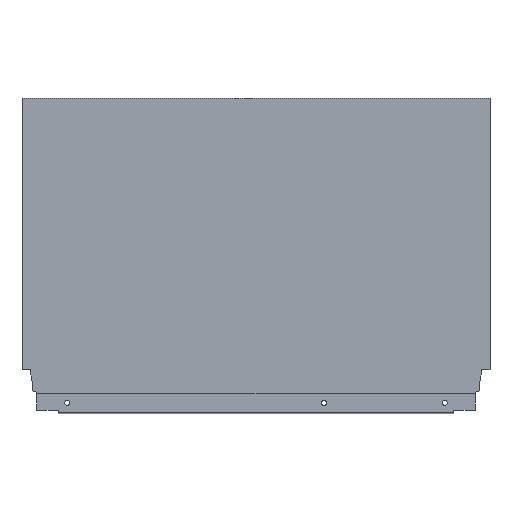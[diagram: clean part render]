
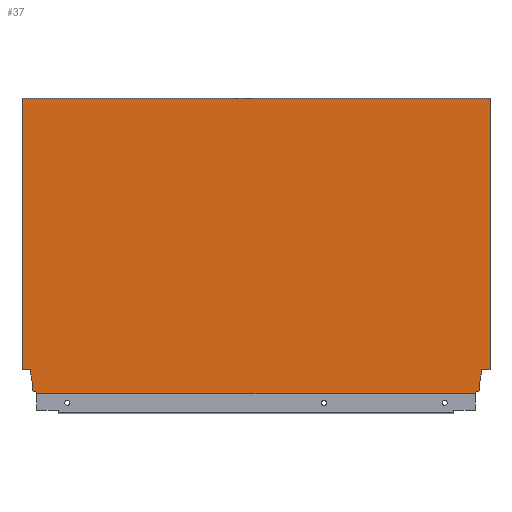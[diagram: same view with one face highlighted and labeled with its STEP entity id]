
A CAD part, top view. The second image highlights one B-rep face of the part: STEP entity #37.
In plain terms, the highlighted planar face has unit normal (0, 0, 1).
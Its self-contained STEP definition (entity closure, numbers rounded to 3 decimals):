
#37 = ADVANCED_FACE ( 'NONE', ( #98 ), #1358, .T. ) ;
#98 = FACE_OUTER_BOUND ( 'NONE', #132, .T. ) ;
#132 = EDGE_LOOP ( 'NONE', ( #723, #724, #725, #726, #727, #746, #747, #748, #758, #759, #760, #761, #762, #763 ) ) ;
#241 = EDGE_CURVE ( 'NONE', #1109, #1317, #539, .T. ) ;
#243 = EDGE_CURVE ( 'NONE', #1109, #1322, #532, .T. ) ;
#244 = EDGE_CURVE ( 'NONE', #1121, #1283, #553, .T. ) ;
#246 = EDGE_CURVE ( 'NONE', #1322, #1156, #526, .T. ) ;
#247 = EDGE_CURVE ( 'NONE', #1283, #1161, #533, .T. ) ;
#248 = EDGE_CURVE ( 'NONE', #1288, #1161, #529, .T. ) ;
#249 = EDGE_CURVE ( 'NONE', #1156, #1121, #520, .T. ) ;
#250 = EDGE_CURVE ( 'NONE', #1105, #1149, #527, .T. ) ;
#251 = EDGE_CURVE ( 'NONE', #1347, #1317, #523, .T. ) ;
#252 = EDGE_CURVE ( 'NONE', #1297, #1105, #514, .T. ) ;
#253 = EDGE_CURVE ( 'NONE', #1149, #1347, #521, .T. ) ;
#254 = EDGE_CURVE ( 'NONE', #1205, #1297, #517, .T. ) ;
#255 = EDGE_CURVE ( 'NONE', #1230, #1205, #515, .T. ) ;
#256 = EDGE_CURVE ( 'NONE', #1288, #1230, #511, .T. ) ;
#391 = AXIS2_PLACEMENT_3D ( 'NONE', #1354, #1346, #1345 ) ;
#506 = VECTOR ( 'NONE', #1175, 1000. ) ;
#508 = VECTOR ( 'NONE', #1178, 1000. ) ;
#510 = VECTOR ( 'NONE', #1181, 1000. ) ;
#511 = LINE ( 'NONE', #1180, #506 ) ;
#512 = VECTOR ( 'NONE', #1184, 1000. ) ;
#513 = VECTOR ( 'NONE', #1186, 1000. ) ;
#514 = LINE ( 'NONE', #1188, #513 ) ;
#515 = LINE ( 'NONE', #1183, #508 ) ;
#516 = VECTOR ( 'NONE', #1190, 1000. ) ;
#517 = LINE ( 'NONE', #1185, #510 ) ;
#518 = VECTOR ( 'NONE', #1192, 1000. ) ;
#519 = VECTOR ( 'NONE', #1195, 1000. ) ;
#520 = LINE ( 'NONE', #1196, #519 ) ;
#521 = LINE ( 'NONE', #1191, #512 ) ;
#522 = VECTOR ( 'NONE', #1197, 1000. ) ;
#523 = LINE ( 'NONE', #1193, #516 ) ;
#524 = VECTOR ( 'NONE', #1200, 1000. ) ;
#525 = VECTOR ( 'NONE', #1203, 1000. ) ;
#526 = LINE ( 'NONE', #1204, #525 ) ;
#527 = LINE ( 'NONE', #1199, #518 ) ;
#529 = LINE ( 'NONE', #1201, #522 ) ;
#530 = VECTOR ( 'NONE', #1209, 1000. ) ;
#531 = VECTOR ( 'NONE', #1212, 1000. ) ;
#532 = LINE ( 'NONE', #1213, #531 ) ;
#533 = LINE ( 'NONE', #1208, #524 ) ;
#538 = VECTOR ( 'NONE', #1218, 1000. ) ;
#539 = LINE ( 'NONE', #1220, #538 ) ;
#553 = LINE ( 'NONE', #1217, #530 ) ;
#723 = ORIENTED_EDGE ( 'NONE', *, *, #248, .T. ) ;
#724 = ORIENTED_EDGE ( 'NONE', *, *, #247, .F. ) ;
#725 = ORIENTED_EDGE ( 'NONE', *, *, #244, .F. ) ;
#726 = ORIENTED_EDGE ( 'NONE', *, *, #249, .F. ) ;
#727 = ORIENTED_EDGE ( 'NONE', *, *, #246, .F. ) ;
#746 = ORIENTED_EDGE ( 'NONE', *, *, #243, .F. ) ;
#747 = ORIENTED_EDGE ( 'NONE', *, *, #241, .T. ) ;
#748 = ORIENTED_EDGE ( 'NONE', *, *, #251, .F. ) ;
#758 = ORIENTED_EDGE ( 'NONE', *, *, #253, .F. ) ;
#759 = ORIENTED_EDGE ( 'NONE', *, *, #250, .F. ) ;
#760 = ORIENTED_EDGE ( 'NONE', *, *, #252, .F. ) ;
#761 = ORIENTED_EDGE ( 'NONE', *, *, #254, .F. ) ;
#762 = ORIENTED_EDGE ( 'NONE', *, *, #255, .F. ) ;
#763 = ORIENTED_EDGE ( 'NONE', *, *, #256, .F. ) ;
#799 = CARTESIAN_POINT ( 'NONE',  ( 0., 21.2, 8. ) ) ;
#814 = CARTESIAN_POINT ( 'NONE',  ( -413., 21.2, 8. ) ) ;
#817 = CARTESIAN_POINT ( 'NONE',  ( -404.1, 2.64, 8. ) ) ;
#820 = CARTESIAN_POINT ( 'NONE',  ( -8.9, 2.64, 8. ) ) ;
#833 = CARTESIAN_POINT ( 'NONE',  ( -404.1, 10.765, 8. ) ) ;
#838 = CARTESIAN_POINT ( 'NONE',  ( -399.996, 0., 8. ) ) ;
#859 = CARTESIAN_POINT ( 'NONE',  ( -8.9, 10.765, 8. ) ) ;
#1105 = VERTEX_POINT ( 'NONE', #859 ) ;
#1109 = VERTEX_POINT ( 'NONE', #838 ) ;
#1121 = VERTEX_POINT ( 'NONE', #833 ) ;
#1149 = VERTEX_POINT ( 'NONE', #820 ) ;
#1156 = VERTEX_POINT ( 'NONE', #817 ) ;
#1161 = VERTEX_POINT ( 'NONE', #814 ) ;
#1175 = DIRECTION ( 'NONE',  ( 1., 0., 0. ) ) ;
#1178 = DIRECTION ( 'NONE',  ( 0., -1., 0. ) ) ;
#1180 = CARTESIAN_POINT ( 'NONE',  ( -413., 260.7, 8. ) ) ;
#1181 = DIRECTION ( 'NONE',  ( -1., 0., 0. ) ) ;
#1183 = CARTESIAN_POINT ( 'NONE',  ( 0., 0., 8. ) ) ;
#1184 = DIRECTION ( 'NONE',  ( -0.94, -0.342, 0. ) ) ;
#1185 = CARTESIAN_POINT ( 'NONE',  ( 0., 21.2, 8. ) ) ;
#1186 = DIRECTION ( 'NONE',  ( -0.174, -0.985, 0. ) ) ;
#1188 = CARTESIAN_POINT ( 'NONE',  ( -7.06, 21.2, 8. ) ) ;
#1190 = DIRECTION ( 'NONE',  ( 0., -1., 0. ) ) ;
#1191 = CARTESIAN_POINT ( 'NONE',  ( -8.9, 2.64, 8. ) ) ;
#1192 = DIRECTION ( 'NONE',  ( 0., -1., 0. ) ) ;
#1193 = CARTESIAN_POINT ( 'NONE',  ( -13.004, 1.146, 8. ) ) ;
#1195 = DIRECTION ( 'NONE',  ( 0., 1., 0. ) ) ;
#1196 = CARTESIAN_POINT ( 'NONE',  ( -404.1, 10.765, 8. ) ) ;
#1197 = DIRECTION ( 'NONE',  ( 0., -1., 0. ) ) ;
#1199 = CARTESIAN_POINT ( 'NONE',  ( -8.9, 10.765, 8. ) ) ;
#1200 = DIRECTION ( 'NONE',  ( -1., 0., 0. ) ) ;
#1201 = CARTESIAN_POINT ( 'NONE',  ( -413., 0., 8. ) ) ;
#1203 = DIRECTION ( 'NONE',  ( -0.94, 0.342, 0. ) ) ;
#1204 = CARTESIAN_POINT ( 'NONE',  ( -404.1, 2.64, 8. ) ) ;
#1205 = VERTEX_POINT ( 'NONE', #799 ) ;
#1208 = CARTESIAN_POINT ( 'NONE',  ( -418., 21.2, 8. ) ) ;
#1209 = DIRECTION ( 'NONE',  ( -0.174, 0.985, 0. ) ) ;
#1212 = DIRECTION ( 'NONE',  ( 0., 1., 0. ) ) ;
#1213 = CARTESIAN_POINT ( 'NONE',  ( -399.996, 1.146, 8. ) ) ;
#1217 = CARTESIAN_POINT ( 'NONE',  ( -405.94, 21.2, 8. ) ) ;
#1218 = DIRECTION ( 'NONE',  ( 1., 0., 0. ) ) ;
#1220 = CARTESIAN_POINT ( 'NONE',  ( -413., 0., 8. ) ) ;
#1230 = VERTEX_POINT ( 'NONE', #1441 ) ;
#1283 = VERTEX_POINT ( 'NONE', #1434 ) ;
#1288 = VERTEX_POINT ( 'NONE', #1430 ) ;
#1297 = VERTEX_POINT ( 'NONE', #1428 ) ;
#1317 = VERTEX_POINT ( 'NONE', #1424 ) ;
#1322 = VERTEX_POINT ( 'NONE', #1423 ) ;
#1345 = DIRECTION ( 'NONE',  ( 1., 0., 0. ) ) ;
#1346 = DIRECTION ( 'NONE',  ( 0., 0., 1. ) ) ;
#1347 = VERTEX_POINT ( 'NONE', #1447 ) ;
#1354 = CARTESIAN_POINT ( 'NONE',  ( -413., 0., 8. ) ) ;
#1358 = PLANE ( 'NONE',  #391 ) ;
#1423 = CARTESIAN_POINT ( 'NONE',  ( -399.996, 1.146, 8. ) ) ;
#1424 = CARTESIAN_POINT ( 'NONE',  ( -13.004, 0., 8. ) ) ;
#1428 = CARTESIAN_POINT ( 'NONE',  ( -7.06, 21.2, 8. ) ) ;
#1430 = CARTESIAN_POINT ( 'NONE',  ( -413., 260.7, 8. ) ) ;
#1434 = CARTESIAN_POINT ( 'NONE',  ( -405.94, 21.2, 8. ) ) ;
#1441 = CARTESIAN_POINT ( 'NONE',  ( 0., 260.7, 8. ) ) ;
#1447 = CARTESIAN_POINT ( 'NONE',  ( -13.004, 1.146, 8. ) ) ;
